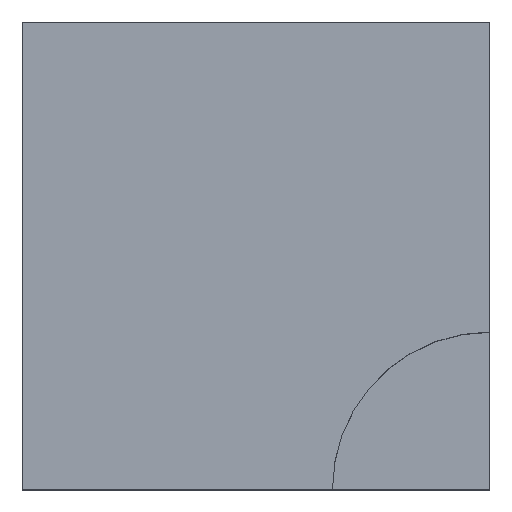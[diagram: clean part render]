
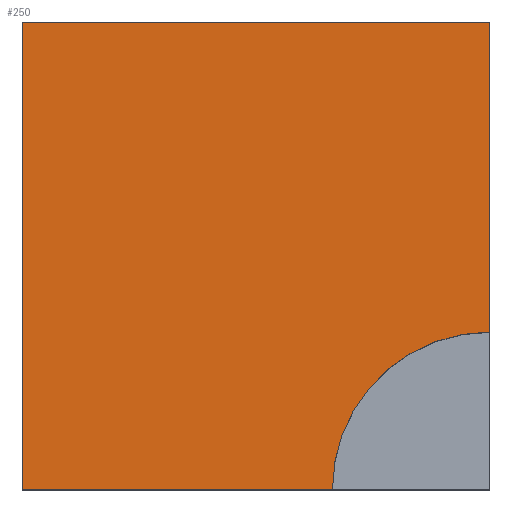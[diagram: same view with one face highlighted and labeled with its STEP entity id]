
A CAD part, top view. The second image highlights one B-rep face of the part: STEP entity #250.
In plain terms, the highlighted planar face has unit normal (0, 0, 1).
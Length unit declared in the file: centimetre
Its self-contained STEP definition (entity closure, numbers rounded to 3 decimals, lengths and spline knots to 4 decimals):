
#9 = VECTOR ( 'NONE', #235, 100. ) ;
#10 = DIRECTION ( 'NONE',  ( 0., -1., 0. ) ) ;
#12 = CARTESIAN_POINT ( 'NONE',  ( 0., 1000., 1000. ) ) ;
#18 = VECTOR ( 'NONE', #236, 100. ) ;
#30 = CIRCLE ( 'NONE', #40, 336.4188 ) ;
#35 = CARTESIAN_POINT ( 'NONE',  ( 0., 0., 1000. ) ) ;
#36 = CARTESIAN_POINT ( 'NONE',  ( 1000., 1000., 1000. ) ) ;
#40 = AXIS2_PLACEMENT_3D ( 'NONE', #58, #178, #295 ) ;
#58 = CARTESIAN_POINT ( 'NONE',  ( 1000., 0., 1000. ) ) ;
#66 = CARTESIAN_POINT ( 'NONE',  ( 0., 0., 1000. ) ) ;
#85 = CARTESIAN_POINT ( 'NONE',  ( 1000., 336.4188, 1000. ) ) ;
#88 = EDGE_LOOP ( 'NONE', ( #346, #95, #119, #240, #205 ) ) ;
#95 = ORIENTED_EDGE ( 'NONE', *, *, #367, .T. ) ;
#97 = CARTESIAN_POINT ( 'NONE',  ( 663.5812, 0., 1000. ) ) ;
#100 = LINE ( 'NONE', #36, #18 ) ;
#106 = EDGE_CURVE ( 'NONE', #222, #142, #268, .T. ) ;
#119 = ORIENTED_EDGE ( 'NONE', *, *, #300, .T. ) ;
#124 = CARTESIAN_POINT ( 'NONE',  ( 0., 0., 1000. ) ) ;
#140 = AXIS2_PLACEMENT_3D ( 'NONE', #66, #185, #293 ) ;
#142 = VERTEX_POINT ( 'NONE', #124 ) ;
#145 = VECTOR ( 'NONE', #10, 100. ) ;
#146 = PLANE ( 'NONE',  #140 ) ;
#156 = LINE ( 'NONE', #264, #220 ) ;
#157 = VERTEX_POINT ( 'NONE', #252 ) ;
#158 = DIRECTION ( 'NONE',  ( -1., 0., 0. ) ) ;
#166 = EDGE_CURVE ( 'NONE', #284, #369, #30, .T. ) ;
#178 = DIRECTION ( 'NONE',  ( 0., 0., 1. ) ) ;
#185 = DIRECTION ( 'NONE',  ( 0., 0., 1. ) ) ;
#205 = ORIENTED_EDGE ( 'NONE', *, *, #280, .T. ) ;
#220 = VECTOR ( 'NONE', #158, 100. ) ;
#222 = VERTEX_POINT ( 'NONE', #231 ) ;
#231 = CARTESIAN_POINT ( 'NONE',  ( 0., 1000., 1000. ) ) ;
#235 = DIRECTION ( 'NONE',  ( 1., 0., 0. ) ) ;
#236 = DIRECTION ( 'NONE',  ( 0., 1., 0. ) ) ;
#240 = ORIENTED_EDGE ( 'NONE', *, *, #106, .T. ) ;
#250 = ADVANCED_FACE ( 'NONE', ( #349 ), #146, .T. ) ;
#252 = CARTESIAN_POINT ( 'NONE',  ( 1000., 1000., 1000. ) ) ;
#256 = LINE ( 'NONE', #35, #9 ) ;
#264 = CARTESIAN_POINT ( 'NONE',  ( 0., 1000., 1000. ) ) ;
#268 = LINE ( 'NONE', #12, #145 ) ;
#280 = EDGE_CURVE ( 'NONE', #142, #369, #256, .T. ) ;
#284 = VERTEX_POINT ( 'NONE', #85 ) ;
#293 = DIRECTION ( 'NONE',  ( 1., 0., 0. ) ) ;
#295 = DIRECTION ( 'NONE',  ( 1., 0., 0. ) ) ;
#300 = EDGE_CURVE ( 'NONE', #157, #222, #156, .T. ) ;
#346 = ORIENTED_EDGE ( 'NONE', *, *, #166, .F. ) ;
#349 = FACE_OUTER_BOUND ( 'NONE', #88, .T. ) ;
#367 = EDGE_CURVE ( 'NONE', #284, #157, #100, .T. ) ;
#369 = VERTEX_POINT ( 'NONE', #97 ) ;
